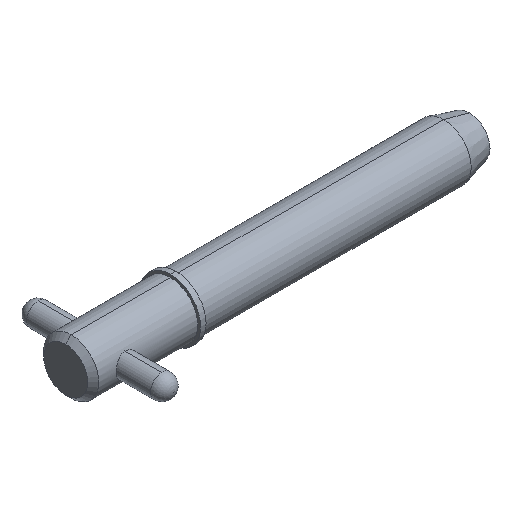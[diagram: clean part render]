
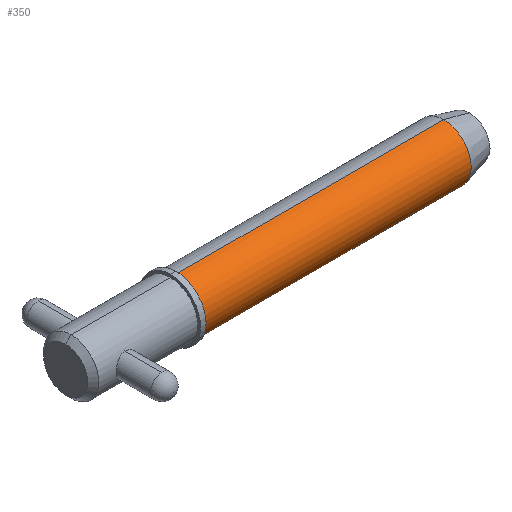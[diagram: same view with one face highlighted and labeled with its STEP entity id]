
A CAD part, isometric view. The second image highlights one B-rep face of the part: STEP entity #350.
In plain terms, the highlighted cylindrical face has radius 4.765 mm (diameter 9.53 mm), a partial arc.
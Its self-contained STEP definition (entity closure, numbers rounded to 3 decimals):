
#58 = AXIS2_PLACEMENT_3D ( 'NONE', #64, #1002, #857 ) ;
#64 = CARTESIAN_POINT ( 'NONE',  ( 0., 0., 0. ) ) ;
#129 = CARTESIAN_POINT ( 'NONE',  ( 0., 0., -4.765 ) ) ;
#140 = VERTEX_POINT ( 'NONE', #914 ) ;
#193 = AXIS2_PLACEMENT_3D ( 'NONE', #215, #854, #307 ) ;
#195 = CARTESIAN_POINT ( 'NONE',  ( 65.404, 0., 4.765 ) ) ;
#215 = CARTESIAN_POINT ( 'NONE',  ( 19.05, 0., 0. ) ) ;
#288 = LINE ( 'NONE', #129, #710 ) ;
#302 = CARTESIAN_POINT ( 'NONE',  ( 19.05, 0., 4.765 ) ) ;
#307 = DIRECTION ( 'NONE',  ( 0., 0., -1. ) ) ;
#318 = EDGE_LOOP ( 'NONE', ( #334, #940, #380, #715 ) ) ;
#334 = ORIENTED_EDGE ( 'NONE', *, *, #556, .F. ) ;
#350 = ADVANCED_FACE ( 'NONE', ( #438 ), #608, .T. ) ;
#360 = DIRECTION ( 'NONE',  ( 1., 0., 0. ) ) ;
#380 = ORIENTED_EDGE ( 'NONE', *, *, #893, .T. ) ;
#398 = VERTEX_POINT ( 'NONE', #302 ) ;
#409 = EDGE_CURVE ( 'NONE', #398, #954, #877, .T. ) ;
#434 = DIRECTION ( 'NONE',  ( 1., 0., 0. ) ) ;
#438 = FACE_OUTER_BOUND ( 'NONE', #318, .T. ) ;
#524 = DIRECTION ( 'NONE',  ( 1., 0., 0. ) ) ;
#543 = CIRCLE ( 'NONE', #658, 4.765 ) ;
#544 = LINE ( 'NONE', #865, #695 ) ;
#556 = EDGE_CURVE ( 'NONE', #398, #1003, #544, .T. ) ;
#608 = CYLINDRICAL_SURFACE ( 'NONE', #58, 4.765 ) ;
#643 = CARTESIAN_POINT ( 'NONE',  ( 19.05, 0., -4.765 ) ) ;
#658 = AXIS2_PLACEMENT_3D ( 'NONE', #839, #434, #761 ) ;
#695 = VECTOR ( 'NONE', #524, 1000. ) ;
#710 = VECTOR ( 'NONE', #360, 1000. ) ;
#715 = ORIENTED_EDGE ( 'NONE', *, *, #1009, .F. ) ;
#761 = DIRECTION ( 'NONE',  ( 0., 0., -1. ) ) ;
#839 = CARTESIAN_POINT ( 'NONE',  ( 65.404, 0., 0. ) ) ;
#854 = DIRECTION ( 'NONE',  ( 1., 0., 0. ) ) ;
#857 = DIRECTION ( 'NONE',  ( 0., 0., -1. ) ) ;
#865 = CARTESIAN_POINT ( 'NONE',  ( 0., 0., 4.765 ) ) ;
#877 = CIRCLE ( 'NONE', #193, 4.765 ) ;
#893 = EDGE_CURVE ( 'NONE', #954, #140, #288, .T. ) ;
#914 = CARTESIAN_POINT ( 'NONE',  ( 65.404, 0., -4.765 ) ) ;
#940 = ORIENTED_EDGE ( 'NONE', *, *, #409, .T. ) ;
#954 = VERTEX_POINT ( 'NONE', #643 ) ;
#1002 = DIRECTION ( 'NONE',  ( 1., 0., 0. ) ) ;
#1003 = VERTEX_POINT ( 'NONE', #195 ) ;
#1009 = EDGE_CURVE ( 'NONE', #1003, #140, #543, .T. ) ;
